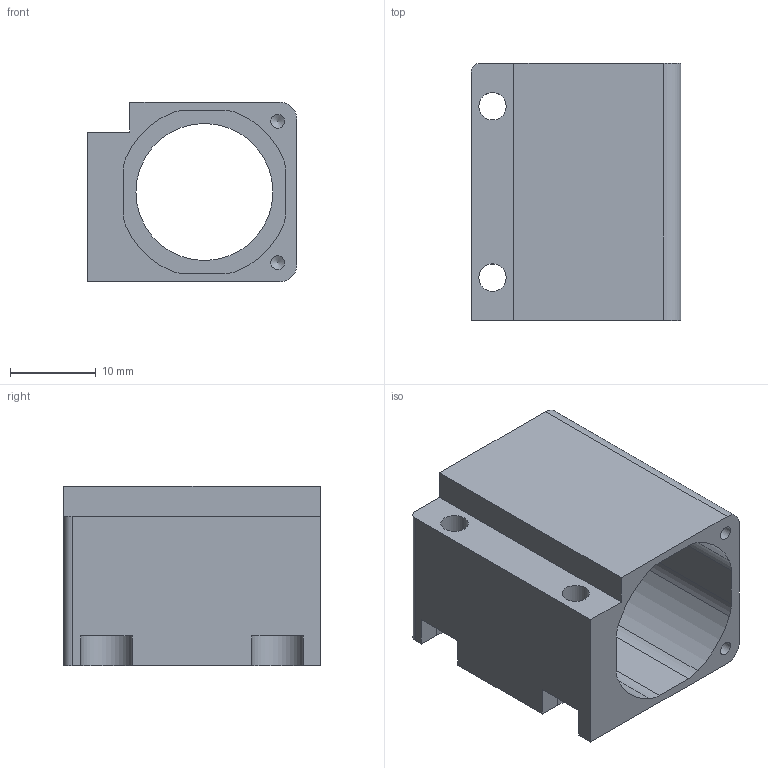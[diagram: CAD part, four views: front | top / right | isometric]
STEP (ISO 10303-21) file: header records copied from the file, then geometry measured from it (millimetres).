
FILE_DESCRIPTION(/* description */ (''),/* implementation_level */ '2;1');
FILE_NAME(/* name */ 'LEAD NUT HOUSING.step',/* time_stamp */ '2026-10-23T15:25:18+05:30',/* author */ (''),/* organization */ (''),/* preprocessor_version */ 'ST-DEVELOPER v20.2',/* originating_system */ 'Autodesk Translation Framework v15.15.0.0',/* authorisation */ '');
FILE_SCHEMA (('AUTOMOTIVE_DESIGN { 1 0 10303 214 3 1 1 }'));
Length unit declared in the file: millimetre
Products named in the file (1): 2026-10-23-15-25-18-534
Bounding box: 24.5 x 30 x 21 mm (x, y, z)
Volume: 5506.9 mm3; surface area: 5563.5 mm2
Topology: 1 solids, 1 shells, 43 faces, 118 edges, 78 vertices
Faces by surface type: cylinder 22, plane 19, cone 2
Full cylindrical faces by diameter (mm): 1.623 x2, 3.2 x2, 16 x1
Entity records: 1415 total; most frequent: DIRECTION 248, CARTESIAN_POINT 238, ORIENTED_EDGE 232, EDGE_CURVE 116, AXIS2_PLACEMENT_3D 88, VERTEX_POINT 78, LINE 72, VECTOR 72
